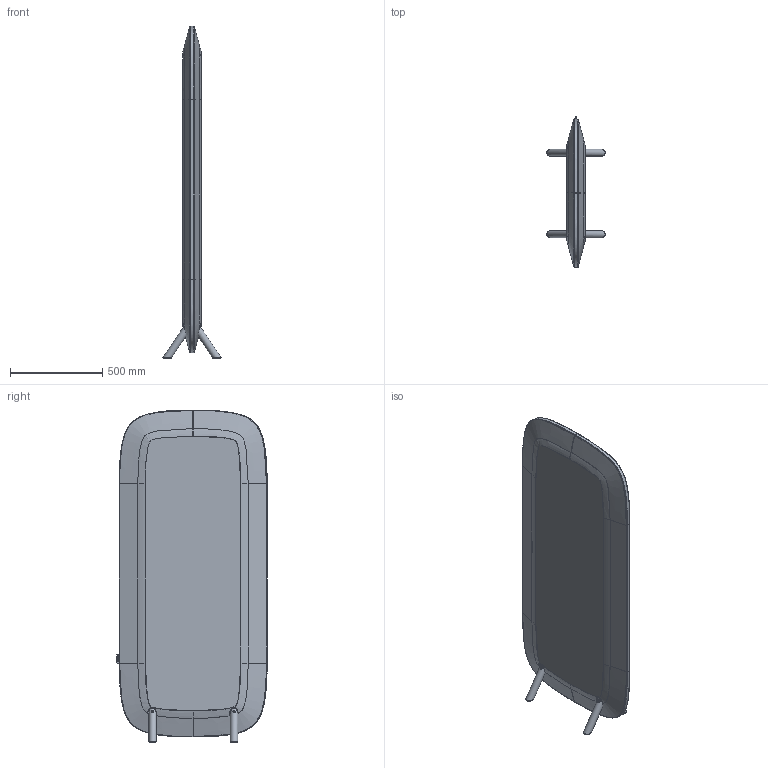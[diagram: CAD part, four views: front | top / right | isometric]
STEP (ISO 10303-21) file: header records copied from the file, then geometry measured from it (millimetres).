
FILE_DESCRIPTION(/* description */ ('','CAx-IF Rec.Pracs.---Representation and Presentation of Product Manufacturing Information (PMI)---4.0---2014-10-13'),/* implementation_level */ '2;1');
FILE_NAME(/* name */ 'SHADE_HEAVY_S_STEP.step',/* time_stamp */ '2025-01-14T14:36:13+01:00',/* author */ (''),/* organization */ (''),/* preprocessor_version */ 'ST-DEVELOPER v20',/* originating_system */ 'Autodesk Translation Framework v13.20.0.188',/* authorisation */ '');
FILE_SCHEMA (('AP242_MANAGED_MODEL_BASED_3D_ENGINEERING_MIM_LF { 1 0 10303 442 1 1 4 }'));
Products named in the file (8): 1.0_S_HEAVY_S; Components; 1.1_S_HEAVY_S; 1.1.3_S_HEAVY_S; Štítek SLB v3; 1.2_S_HEAVY_S; Šroub nábytkářský s válcovou hl
avou na imbus 17mm M6x40 ZB v6; SHADE_TIMBER_NOHA v23
Assembly tree (13 placements, depth 4):
  1.0_S_HEAVY_S
    Components
      1.1_S_HEAVY_S
        1.1.3_S_HEAVY_S
        Štítek SLB v3
      1.2_S_HEAVY_S
        Šroub nábytkářský s válcovou hl
avou na imbus 17mm M6x40 ZB v6  x4
        SHADE_TIMBER_NOHA v23  x4
Bounding box: 316.34 x 815 x 1800.37 mm (x, y, z)
Volume: 3868099 mm3; surface area: 5846573.7 mm2
Topology: 30 solids, 30 shells, 774 faces, 2472 edges, 1764 vertices
Faces by surface type: bspline 272, plane 246, cylinder 224, cone 32
Full cylindrical faces by diameter (mm): 4.744 x156, 8 x8, 10 x4, 12.5 x4, 40 x4
Entity records: 57557 total; most frequent: CARTESIAN_POINT 44783, ORIENTED_EDGE 3078, DIRECTION 1843, EDGE_CURVE 1539, VERTEX_POINT 1023, LINE 723, VECTOR 723, EDGE_LOOP 576
